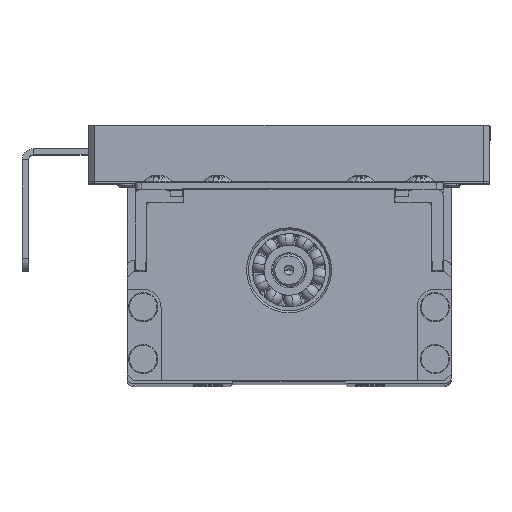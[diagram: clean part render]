
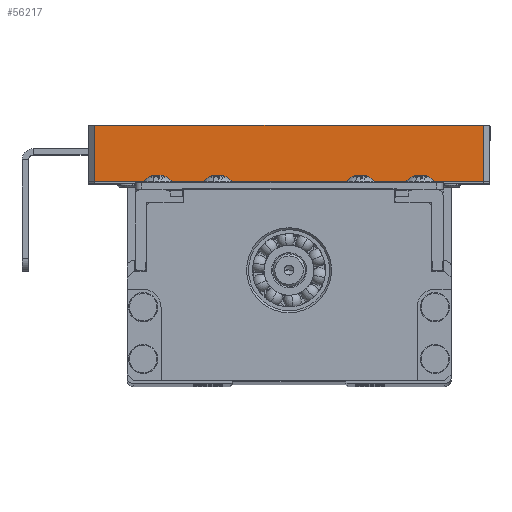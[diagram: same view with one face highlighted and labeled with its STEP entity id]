
A CAD part, top view. The second image highlights one B-rep face of the part: STEP entity #56217.
In plain terms, the highlighted planar face has unit normal (0, 0, 1).
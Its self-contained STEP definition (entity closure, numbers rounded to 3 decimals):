
#190 = VECTOR ( 'NONE', #37557, 1000. ) ;
#2399 = CARTESIAN_POINT ( 'NONE',  ( 30., 31.3, 35. ) ) ;
#4787 = VECTOR ( 'NONE', #45950, 1000. ) ;
#5382 = VERTEX_POINT ( 'NONE', #2399 ) ;
#5713 = EDGE_CURVE ( 'NONE', #15940, #10999, #11510, .T. ) ;
#6344 = LINE ( 'NONE', #16532, #16875 ) ;
#10999 = VERTEX_POINT ( 'NONE', #23263 ) ;
#11510 = LINE ( 'NONE', #47221, #190 ) ;
#15503 = EDGE_CURVE ( 'NONE', #15940, #35330, #50904, .T. ) ;
#15940 = VERTEX_POINT ( 'NONE', #45886 ) ;
#16532 = CARTESIAN_POINT ( 'NONE',  ( 30., 40., 35. ) ) ;
#16875 = VECTOR ( 'NONE', #46737, 1000. ) ;
#17519 = CARTESIAN_POINT ( 'NONE',  ( -30., 31.3, 35. ) ) ;
#18613 = LINE ( 'NONE', #45287, #42461 ) ;
#19172 = AXIS2_PLACEMENT_3D ( 'NONE', #42896, #43480, #21194 ) ;
#19861 = CARTESIAN_POINT ( 'NONE',  ( -30., 31.3, 35. ) ) ;
#21194 = DIRECTION ( 'NONE',  ( 1., 0., 0. ) ) ;
#23263 = CARTESIAN_POINT ( 'NONE',  ( 30., 40., 35. ) ) ;
#27567 = EDGE_LOOP ( 'NONE', ( #51433, #36005, #31768, #48983 ) ) ;
#31768 = ORIENTED_EDGE ( 'NONE', *, *, #5713, .F. ) ;
#34374 = FACE_OUTER_BOUND ( 'NONE', #27567, .T. ) ;
#35330 = VERTEX_POINT ( 'NONE', #17519 ) ;
#36005 = ORIENTED_EDGE ( 'NONE', *, *, #42020, .T. ) ;
#36744 = DIRECTION ( 'NONE',  ( -1., 0., 0. ) ) ;
#37557 = DIRECTION ( 'NONE',  ( 1., 0., 0. ) ) ;
#42020 = EDGE_CURVE ( 'NONE', #5382, #10999, #6344, .T. ) ;
#42461 = VECTOR ( 'NONE', #36744, 1000. ) ;
#42896 = CARTESIAN_POINT ( 'NONE',  ( 0., 40., 35. ) ) ;
#43480 = DIRECTION ( 'NONE',  ( 0., 0., 1. ) ) ;
#45287 = CARTESIAN_POINT ( 'NONE',  ( -31., 31.3, 35. ) ) ;
#45886 = CARTESIAN_POINT ( 'NONE',  ( -30., 40., 35. ) ) ;
#45950 = DIRECTION ( 'NONE',  ( 0., -1., 0. ) ) ;
#46737 = DIRECTION ( 'NONE',  ( 0., 1., 0. ) ) ;
#47221 = CARTESIAN_POINT ( 'NONE',  ( 31., 40., 35. ) ) ;
#47305 = EDGE_CURVE ( 'NONE', #5382, #35330, #18613, .T. ) ;
#48983 = ORIENTED_EDGE ( 'NONE', *, *, #15503, .T. ) ;
#50904 = LINE ( 'NONE', #19861, #4787 ) ;
#51433 = ORIENTED_EDGE ( 'NONE', *, *, #47305, .F. ) ;
#56060 = PLANE ( 'NONE',  #19172 ) ;
#56217 = ADVANCED_FACE ( 'NONE', ( #34374 ), #56060, .T. ) ;
